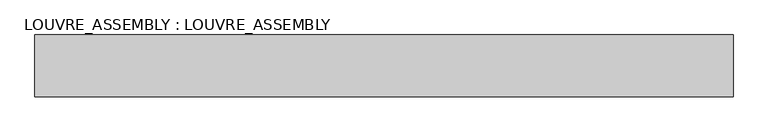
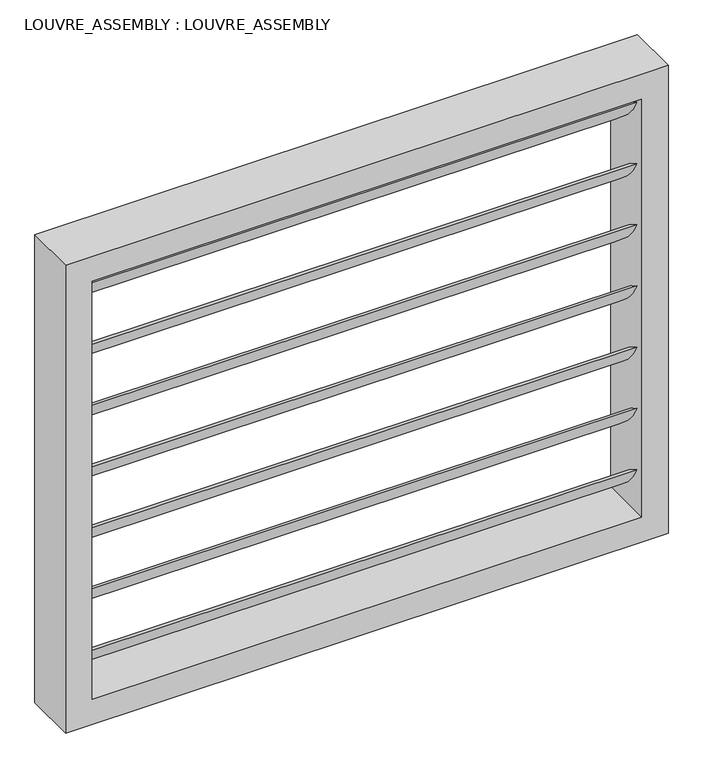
"""IFC4 building model written with IfcOpenShell, lengths in millimetres: plate geometry, LOUVRE_ASSEMBLY : LOUVRE_ASSEMBLY."""

from ifc_helpers import new_model, si_unit, point, frame, frame_2d, origin, place, context, project, spatial, circle_curve, trimmed, segment, composite_curve, outline, extrude, faceted_brep, source, transform, mapped, element, save


def louvre_assembly_louvre_assembly_0d6be10c(model_context):
    return source(origin(), model_context, "Body", "SolidModel", [
        extrude(outline(composite_curve([segment(trimmed(circle_curve(frame_2d((148.492424, 480.992424)), 222.9910312), [point((53.0330086, 279.4669914))], [point((-53.0330086, 385.5330086))], False, "CARTESIAN"), True, "CONTINUOUS"), segment(trimmed(circle_curve(frame_2d((-148.492424, 184.007576)), 222.9910312), [point((-53.0330086, 385.5330086))], [point((53.0330086, 279.4669914))], False, "CARTESIAN"), True, "CONTINUOUS")], self_intersect=False)), frame((-775.0, 0.0, 0.0), z_axis=(1.0, 0.0, 0.0), x_axis=(0.0, 1.0, 0.0)), (0.0, 0.0, 1.0), 1550.0),
        extrude(outline(composite_curve([segment(trimmed(circle_curve(frame_2d((148.492424, 663.492424)), 222.9910312), [point((53.0330086, 461.9669914))], [point((-53.0330086, 568.0330086))], False, "CARTESIAN"), True, "CONTINUOUS"), segment(trimmed(circle_curve(frame_2d((-148.492424, 366.507576)), 222.9910312), [point((-53.0330086, 568.0330086))], [point((53.0330086, 461.9669914))], False, "CARTESIAN"), True, "CONTINUOUS")], self_intersect=False)), frame((-775.0, 0.0, 0.0), z_axis=(1.0, 0.0, 0.0), x_axis=(0.0, 1.0, 0.0)), (0.0, 0.0, 1.0), 1550.0),
        extrude(outline(composite_curve([segment(trimmed(circle_curve(frame_2d((148.492424, 845.992424)), 222.9910312), [point((53.0330086, 644.4669914))], [point((-53.0330086, 750.5330086))], False, "CARTESIAN"), True, "CONTINUOUS"), segment(trimmed(circle_curve(frame_2d((-148.492424, 549.007576)), 222.9910312), [point((-53.0330086, 750.5330086))], [point((53.0330086, 644.4669914))], False, "CARTESIAN"), True, "CONTINUOUS")], self_intersect=False)), frame((-775.0, 0.0, 0.0), z_axis=(1.0, 0.0, 0.0), x_axis=(0.0, 1.0, 0.0)), (0.0, 0.0, 1.0), 1550.0),
        extrude(outline(composite_curve([segment(trimmed(circle_curve(frame_2d((148.492424, 1028.492424)), 222.9910312), [point((53.0330086, 826.9669914))], [point((-53.0330086, 933.0330086))], False, "CARTESIAN"), True, "CONTINUOUS"), segment(trimmed(circle_curve(frame_2d((-148.492424, 731.507576)), 222.9910312), [point((-53.0330086, 933.0330086))], [point((53.0330086, 826.9669914))], False, "CARTESIAN"), True, "CONTINUOUS")], self_intersect=False)), frame((-775.0, 0.0, 0.0), z_axis=(1.0, 0.0, 0.0), x_axis=(0.0, 1.0, 0.0)), (0.0, 0.0, 1.0), 1550.0),
        extrude(outline(composite_curve([segment(trimmed(circle_curve(frame_2d((148.492424, 1210.992424)), 222.9910312), [point((53.0330086, 1009.4669914))], [point((-53.0330086, 1115.5330086))], False, "CARTESIAN"), True, "CONTINUOUS"), segment(trimmed(circle_curve(frame_2d((-148.492424, 914.007576)), 222.9910312), [point((-53.0330086, 1115.5330086))], [point((53.0330086, 1009.4669914))], False, "CARTESIAN"), True, "CONTINUOUS")], self_intersect=False)), frame((-775.0, 0.0, 0.0), z_axis=(1.0, 0.0, 0.0), x_axis=(0.0, 1.0, 0.0)), (0.0, 0.0, 1.0), 1550.0),
        extrude(outline(composite_curve([segment(trimmed(circle_curve(frame_2d((148.492424, 298.492424)), 222.9910312), [point((53.0330086, 96.9669914))], [point((-53.0330086, 203.0330086))], False, "CARTESIAN"), True, "CONTINUOUS"), segment(trimmed(circle_curve(frame_2d((-148.492424, 1.507576)), 222.9910312), [point((-53.0330086, 203.0330086))], [point((53.0330086, 96.9669914))], False, "CARTESIAN"), True, "CONTINUOUS")], self_intersect=False)), frame((-775.0, 0.0, 0.0), z_axis=(1.0, 0.0, 0.0), x_axis=(0.0, 1.0, 0.0)), (0.0, 0.0, 1.0), 1550.0),
        extrude(outline(composite_curve([segment(trimmed(circle_curve(frame_2d((148.492424, 1393.492424)), 222.9910312), [point((53.0330086, 1191.9669914))], [point((-53.0330086, 1298.0330086))], False, "CARTESIAN"), True, "CONTINUOUS"), segment(trimmed(circle_curve(frame_2d((-148.492424, 1096.507576)), 222.9910312), [point((-53.0330086, 1298.0330086))], [point((53.0330086, 1191.9669914))], False, "CARTESIAN"), True, "CONTINUOUS")], self_intersect=False)), frame((-775.0, 0.0, 0.0), z_axis=(1.0, 0.0, 0.0), x_axis=(0.0, 1.0, 0.0)), (0.0, 0.0, 1.0), 1550.0),
        faceted_brep([(-850.0, -75.0, 1395.0), (-850.0, 75.0, 1395.0), (-850.0, 75.0, 0.0), (-850.0, -75.0, 0.0), (-844.375, 75.0, 1389.375), (-844.375, -69.375, 1389.375), (-844.375, -69.375, 5.625), (-844.375, 75.0, 5.625), (-780.625, -69.375, 1325.625), (-780.625, 75.0, 1325.625), (-780.625, 75.0, 69.375), (-780.625, -69.375, 69.375), (-775.0, 75.0, 1320.0), (-775.0, -75.0, 1320.0), (-775.0, -75.0, 75.0), (-775.0, 75.0, 75.0), (850.0, 75.0, 0.0), (850.0, -75.0, 0.0), (844.375, -69.375, 5.625), (844.375, 75.0, 5.625), (780.625, 75.0, 69.375), (780.625, -69.375, 69.375), (775.0, -75.0, 75.0), (775.0, 75.0, 75.0), (850.0, 75.0, 1395.0), (850.0, -75.0, 1395.0), (844.375, -69.375, 1389.375), (844.375, 75.0, 1389.375), (780.625, 75.0, 1325.625), (780.625, -69.375, 1325.625), (775.0, -75.0, 1320.0), (775.0, 75.0, 1320.0)], [[[0, 1, 2, 3]], [[4, 5, 6, 7]], [[8, 9, 10, 11]], [[12, 13, 14, 15]], [[3, 2, 16, 17]], [[7, 6, 18, 19]], [[11, 10, 20, 21]], [[15, 14, 22, 23]], [[17, 16, 24, 25]], [[19, 18, 26, 27]], [[21, 20, 28, 29]], [[23, 22, 30, 31]], [[25, 24, 1, 0]], [[27, 26, 5, 4]], [[29, 28, 9, 8]], [[31, 30, 13, 12]], [[3, 17, 25, 0], [13, 30, 22, 14]], [[9, 28, 20, 10], [15, 23, 31, 12]], [[5, 26, 18, 6], [11, 21, 29, 8]], [[1, 24, 16, 2], [7, 19, 27, 4]]]),
    ])


if __name__ == "__main__":
    model = new_model("IFC4")
    model_context = context("Model", 3, world=origin())
    ifc_project = project(units=[si_unit("LENGTHUNIT", "METRE", prefix="MILLI")], contexts=[model_context])
    site = spatial("IfcSite", under=ifc_project)
    building = spatial("IfcBuilding", under=site)
    placement = place(None, origin())
    louvre_assembly_louvre_assembly_shape = louvre_assembly_louvre_assembly_0d6be10c(model_context)
    element("IfcPlate", 1, ObjectType="LOUVRE_ASSEMBLY : LOUVRE_ASSEMBLY", at=placement, inside=building, context=model_context, shape_type="MappedRepresentation", body=[
        mapped(louvre_assembly_louvre_assembly_shape, transform((0.0, 0.0, 0.0), x_axis=(1.0, 0.0, 0.0), y_axis=(0.0, 1.0, 0.0), z_axis=(0.0, 0.0, 1.0))),
    ])
    save(model, "model.ifc")
